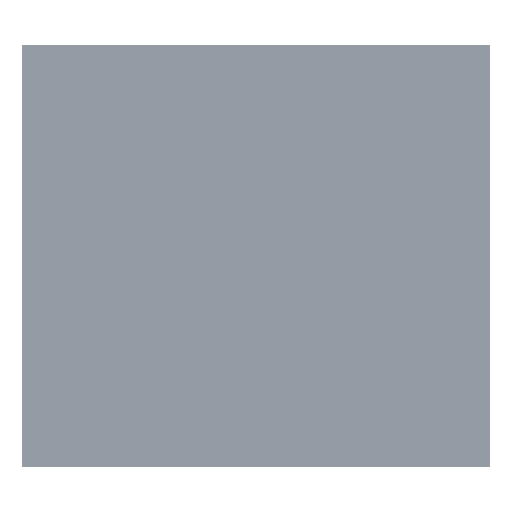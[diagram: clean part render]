
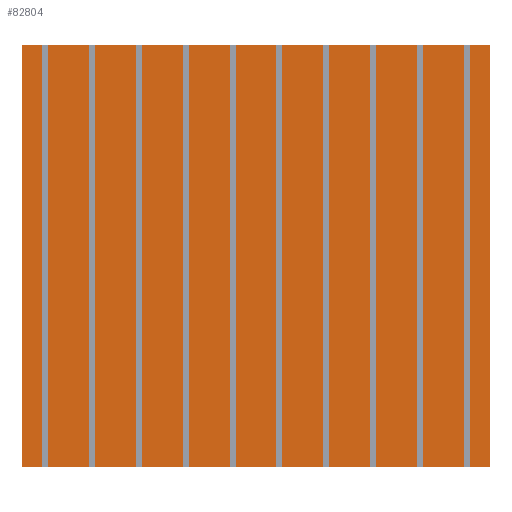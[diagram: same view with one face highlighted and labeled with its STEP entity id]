
A CAD part, front view. The second image highlights one B-rep face of the part: STEP entity #82804.
In plain terms, the highlighted planar face has unit normal (0, -1, 0) as drawn and (0, 0, 1) by its records, which use the part's own axes.
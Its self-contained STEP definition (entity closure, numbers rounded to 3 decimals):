
#12375=FACE_OUTER_BOUND('',#17138,.T.);
#17138=EDGE_LOOP('',(#56305,#56306,#56307,#56308));
#21999=LINE('',#119776,#29199);
#22003=LINE('',#119784,#29203);
#22006=LINE('',#119790,#29206);
#22009=LINE('',#119795,#29209);
#29199=VECTOR('',#96304,10.);
#29203=VECTOR('',#96310,10.);
#29206=VECTOR('',#96315,10.);
#29209=VECTOR('',#96320,10.);
#36399=VERTEX_POINT('',#119774);
#36400=VERTEX_POINT('',#119775);
#36403=VERTEX_POINT('',#119783);
#36405=VERTEX_POINT('',#119789);
#44012=EDGE_CURVE('',#36399,#36400,#21999,.T.);
#44016=EDGE_CURVE('',#36400,#36403,#22003,.T.);
#44019=EDGE_CURVE('',#36403,#36405,#22006,.T.);
#44022=EDGE_CURVE('',#36405,#36399,#22009,.T.);
#56305=ORIENTED_EDGE('',*,*,#44012,.F.);
#56306=ORIENTED_EDGE('',*,*,#44022,.F.);
#56307=ORIENTED_EDGE('',*,*,#44019,.F.);
#56308=ORIENTED_EDGE('',*,*,#44016,.F.);
#80847=PLANE('',#88166);
#82804=ADVANCED_FACE('',(#12375),#80847,.T.);
#88166=AXIS2_PLACEMENT_3D('',#119797,#96322,#96323);
#96304=DIRECTION('',(0.,1.,0.));
#96310=DIRECTION('',(1.,0.,0.));
#96315=DIRECTION('',(0.,-1.,0.));
#96320=DIRECTION('',(-1.,0.,0.));
#96322=DIRECTION('center_axis',(0.,0.,1.));
#96323=DIRECTION('ref_axis',(1.,0.,0.));
#119774=CARTESIAN_POINT('',(-6272.,0.,3.));
#119775=CARTESIAN_POINT('',(-6272.,5651.,3.));
#119776=CARTESIAN_POINT('',(-6272.,0.,3.));
#119783=CARTESIAN_POINT('',(0.,5651.,3.));
#119784=CARTESIAN_POINT('',(-6272.,5651.,3.));
#119789=CARTESIAN_POINT('',(0.,0.,3.));
#119790=CARTESIAN_POINT('',(0.,5651.,3.));
#119795=CARTESIAN_POINT('',(0.,0.,3.));
#119797=CARTESIAN_POINT('Origin',(-3136.,2825.5,3.));
